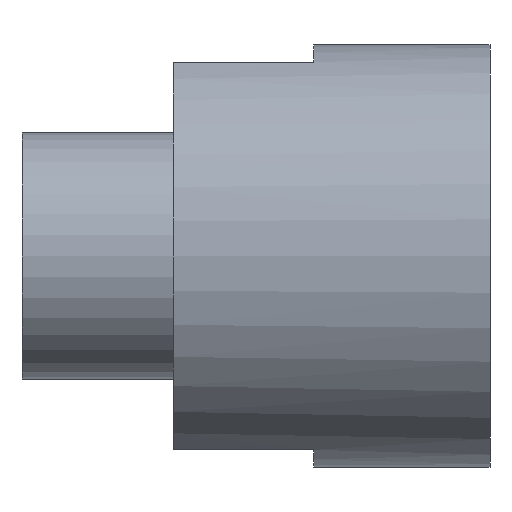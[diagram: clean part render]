
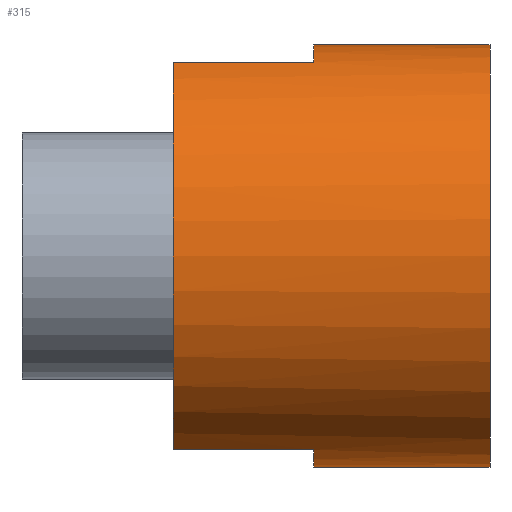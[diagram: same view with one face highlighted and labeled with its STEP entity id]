
A CAD part, front view. The second image highlights one B-rep face of the part: STEP entity #315.
In plain terms, the highlighted cylindrical face has radius 19.05 mm (diameter 38.1 mm), a partial arc.
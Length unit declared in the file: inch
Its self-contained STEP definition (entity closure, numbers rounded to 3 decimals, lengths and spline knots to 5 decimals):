
#52 = VERTEX_POINT ( 'NONE', #559 ) ;
#57 = CIRCLE ( 'NONE', #228, 0.75 ) ;
#61 = VERTEX_POINT ( 'NONE', #448 ) ;
#78 = VECTOR ( 'NONE', #496, 39.37008 ) ;
#87 = EDGE_LOOP ( 'NONE', ( #160, #172, #199, #202, #175, #205, #197, #204 ) ) ;
#93 = VECTOR ( 'NONE', #488, 39.37008 ) ;
#94 = VERTEX_POINT ( 'NONE', #468 ) ;
#103 = VERTEX_POINT ( 'NONE', #346 ) ;
#106 = VERTEX_POINT ( 'NONE', #508 ) ;
#107 = VERTEX_POINT ( 'NONE', #353 ) ;
#108 = VERTEX_POINT ( 'NONE', #553 ) ;
#120 = LINE ( 'NONE', #503, #125 ) ;
#125 = VECTOR ( 'NONE', #509, 39.37008 ) ;
#130 = LINE ( 'NONE', #489, #93 ) ;
#131 = CIRCLE ( 'NONE', #233, 0.75 ) ;
#132 = CIRCLE ( 'NONE', #232, 0.75 ) ;
#133 = LINE ( 'NONE', #515, #158 ) ;
#134 = CIRCLE ( 'NONE', #231, 0.75 ) ;
#135 = LINE ( 'NONE', #497, #78 ) ;
#158 = VECTOR ( 'NONE', #526, 39.37008 ) ;
#160 = ORIENTED_EDGE ( 'NONE', *, *, #267, .F. ) ;
#172 = ORIENTED_EDGE ( 'NONE', *, *, #273, .F. ) ;
#175 = ORIENTED_EDGE ( 'NONE', *, *, #275, .T. ) ;
#197 = ORIENTED_EDGE ( 'NONE', *, *, #270, .T. ) ;
#199 = ORIENTED_EDGE ( 'NONE', *, *, #274, .F. ) ;
#202 = ORIENTED_EDGE ( 'NONE', *, *, #276, .T. ) ;
#204 = ORIENTED_EDGE ( 'NONE', *, *, #277, .F. ) ;
#205 = ORIENTED_EDGE ( 'NONE', *, *, #280, .F. ) ;
#206 = VERTEX_POINT ( 'NONE', #379 ) ;
#228 = AXIS2_PLACEMENT_3D ( 'NONE', #473, #472, #470 ) ;
#231 = AXIS2_PLACEMENT_3D ( 'NONE', #481, #480, #479 ) ;
#232 = AXIS2_PLACEMENT_3D ( 'NONE', #487, #486, #485 ) ;
#233 = AXIS2_PLACEMENT_3D ( 'NONE', #492, #491, #490 ) ;
#267 = EDGE_CURVE ( 'NONE', #107, #108, #133, .T. ) ;
#270 = EDGE_CURVE ( 'NONE', #206, #106, #120, .T. ) ;
#273 = EDGE_CURVE ( 'NONE', #52, #107, #131, .T. ) ;
#274 = EDGE_CURVE ( 'NONE', #94, #52, #135, .T. ) ;
#275 = EDGE_CURVE ( 'NONE', #61, #103, #130, .T. ) ;
#276 = EDGE_CURVE ( 'NONE', #94, #61, #132, .T. ) ;
#277 = EDGE_CURVE ( 'NONE', #108, #106, #134, .T. ) ;
#280 = EDGE_CURVE ( 'NONE', #206, #103, #57, .T. ) ;
#315 = ADVANCED_FACE ( 'NONE', ( #575 ), #562, .T. ) ;
#323 = DIRECTION ( 'NONE',  ( 0., 0., -1. ) ) ;
#346 = CARTESIAN_POINT ( 'NONE',  ( -0.625, -0.29859, -0.688 ) ) ;
#353 = CARTESIAN_POINT ( 'NONE',  ( -0.625, 0., 0.75 ) ) ;
#379 = CARTESIAN_POINT ( 'NONE',  ( -0.625, 0., -0.75 ) ) ;
#448 = CARTESIAN_POINT ( 'NONE',  ( -1.125, -0.29859, -0.688 ) ) ;
#453 = DIRECTION ( 'NONE',  ( 1., 0., 0. ) ) ;
#457 = CARTESIAN_POINT ( 'NONE',  ( 0.20413, 0., 0. ) ) ;
#468 = CARTESIAN_POINT ( 'NONE',  ( -1.125, -0.29859, 0.688 ) ) ;
#470 = DIRECTION ( 'NONE',  ( 0., 0., 1. ) ) ;
#472 = DIRECTION ( 'NONE',  ( -1., 0., 0. ) ) ;
#473 = CARTESIAN_POINT ( 'NONE',  ( -0.625, 0., 0. ) ) ;
#479 = DIRECTION ( 'NONE',  ( 0., 0., -1. ) ) ;
#480 = DIRECTION ( 'NONE',  ( 1., 0., 0. ) ) ;
#481 = CARTESIAN_POINT ( 'NONE',  ( 0., 0., 0. ) ) ;
#485 = DIRECTION ( 'NONE',  ( 0., 0., -1. ) ) ;
#486 = DIRECTION ( 'NONE',  ( 1., 0., 0. ) ) ;
#487 = CARTESIAN_POINT ( 'NONE',  ( -1.125, 0., 0. ) ) ;
#488 = DIRECTION ( 'NONE',  ( 1., 0., 0. ) ) ;
#489 = CARTESIAN_POINT ( 'NONE',  ( 0.20413, -0.29859, -0.688 ) ) ;
#490 = DIRECTION ( 'NONE',  ( 0., 0., 1. ) ) ;
#491 = DIRECTION ( 'NONE',  ( -1., 0., 0. ) ) ;
#492 = CARTESIAN_POINT ( 'NONE',  ( -0.625, 0., 0. ) ) ;
#496 = DIRECTION ( 'NONE',  ( 1., 0., 0. ) ) ;
#497 = CARTESIAN_POINT ( 'NONE',  ( 0.20413, -0.29859, 0.688 ) ) ;
#503 = CARTESIAN_POINT ( 'NONE',  ( 0.20413, 0., -0.75 ) ) ;
#508 = CARTESIAN_POINT ( 'NONE',  ( 0., 0., -0.75 ) ) ;
#509 = DIRECTION ( 'NONE',  ( 1., 0., 0. ) ) ;
#515 = CARTESIAN_POINT ( 'NONE',  ( 0.20413, 0., 0.75 ) ) ;
#526 = DIRECTION ( 'NONE',  ( 1., 0., 0. ) ) ;
#553 = CARTESIAN_POINT ( 'NONE',  ( 0., 0., 0.75 ) ) ;
#559 = CARTESIAN_POINT ( 'NONE',  ( -0.625, -0.29859, 0.688 ) ) ;
#562 = CYLINDRICAL_SURFACE ( 'NONE', #611, 0.75 ) ;
#575 = FACE_OUTER_BOUND ( 'NONE', #87, .T. ) ;
#611 = AXIS2_PLACEMENT_3D ( 'NONE', #457, #453, #323 ) ;
